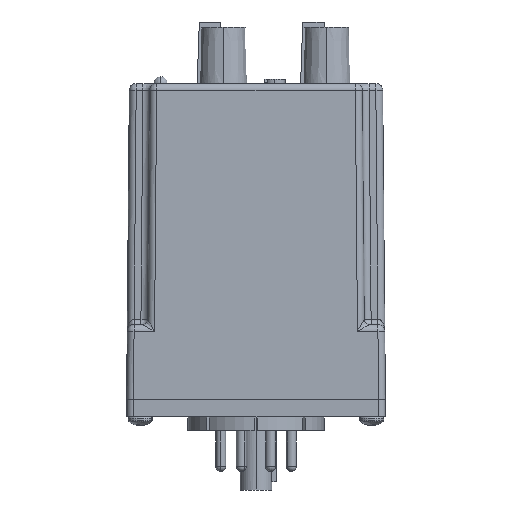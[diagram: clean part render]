
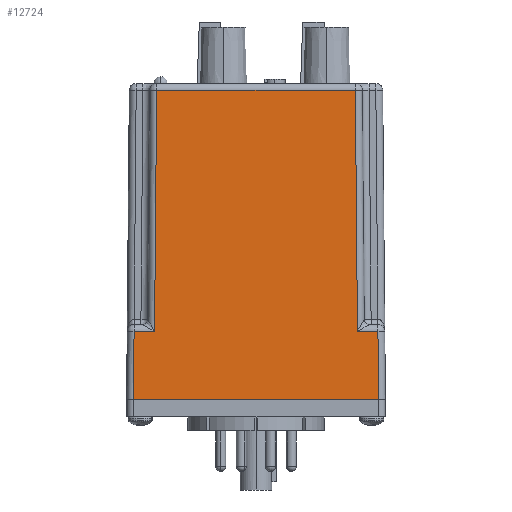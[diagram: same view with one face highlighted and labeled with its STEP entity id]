
A CAD part, left-side view. The second image highlights one B-rep face of the part: STEP entity #12724.
In plain terms, the highlighted planar face has unit normal (-1, 0, 0.009).
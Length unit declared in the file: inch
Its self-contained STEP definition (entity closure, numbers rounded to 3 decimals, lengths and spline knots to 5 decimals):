
#525 = LINE ( 'NONE', #21229, #4293 ) ;
#693 = EDGE_CURVE ( 'NONE', #19260, #26474, #14775, .T. ) ;
#1218 = EDGE_LOOP ( 'NONE', ( #11137, #23041, #22627, #25681, #30228, #22357, #3939, #19796 ) ) ;
#1587 = LINE ( 'NONE', #11926, #12076 ) ;
#3100 = EDGE_CURVE ( 'NONE', #17184, #23902, #29205, .T. ) ;
#3144 = LINE ( 'NONE', #30991, #6549 ) ;
#3242 = DIRECTION ( 'NONE',  ( 0., 1., 0. ) ) ;
#3621 = VERTEX_POINT ( 'NONE', #28580 ) ;
#3939 = ORIENTED_EDGE ( 'NONE', *, *, #19315, .T. ) ;
#4293 = VECTOR ( 'NONE', #3242, 39.37008 ) ;
#5062 = VERTEX_POINT ( 'NONE', #13468 ) ;
#6066 = PLANE ( 'NONE',  #15846 ) ;
#6285 = DIRECTION ( 'NONE',  ( 0., 1., 0. ) ) ;
#6549 = VECTOR ( 'NONE', #13986, 39.37008 ) ;
#10406 = EDGE_CURVE ( 'NONE', #23902, #5062, #3144, .T. ) ;
#10478 = CARTESIAN_POINT ( 'NONE',  ( -0.875, -1.1245, 0. ) ) ;
#11050 = DIRECTION ( 'NONE',  ( -0.009, 0.009, -1. ) ) ;
#11137 = ORIENTED_EDGE ( 'NONE', *, *, #22096, .T. ) ;
#11926 = CARTESIAN_POINT ( 'NONE',  ( -0.875, -1.12451, -0.00055 ) ) ;
#12076 = VECTOR ( 'NONE', #22295, 39.37008 ) ;
#12133 = DIRECTION ( 'NONE',  ( 0.009, 0.009, 1. ) ) ;
#12163 = CARTESIAN_POINT ( 'NONE',  ( -0.86954, -0.93104, 0.62555 ) ) ;
#12724 = ADVANCED_FACE ( 'NONE', ( #29322 ), #6066, .T. ) ;
#13436 = DIRECTION ( 'NONE',  ( 0., -1., 0. ) ) ;
#13450 = CARTESIAN_POINT ( 'NONE',  ( -0.85024, -0.91174, 2.83755 ) ) ;
#13468 = CARTESIAN_POINT ( 'NONE',  ( -0.875, 1.1245, 0. ) ) ;
#13986 = DIRECTION ( 'NONE',  ( -0.009, 0.009, -1. ) ) ;
#14434 = DIRECTION ( 'NONE',  ( 0., 1., 0. ) ) ;
#14775 = LINE ( 'NONE', #17342, #22633 ) ;
#15846 = AXIS2_PLACEMENT_3D ( 'NONE', #16408, #23580, #26788 ) ;
#16269 = EDGE_CURVE ( 'NONE', #20886, #19260, #1587, .T. ) ;
#16408 = CARTESIAN_POINT ( 'NONE',  ( -0.875, -1.1875, 0. ) ) ;
#16791 = VECTOR ( 'NONE', #13436, 39.37008 ) ;
#17184 = VERTEX_POINT ( 'NONE', #33532 ) ;
#17342 = CARTESIAN_POINT ( 'NONE',  ( -0.86954, -0.9305, 0.62555 ) ) ;
#18376 = LINE ( 'NONE', #21425, #26466 ) ;
#18550 = CARTESIAN_POINT ( 'NONE',  ( -0.875, -1.1875, 0. ) ) ;
#18874 = LINE ( 'NONE', #18550, #16791 ) ;
#19246 = VECTOR ( 'NONE', #12133, 39.37008 ) ;
#19260 = VERTEX_POINT ( 'NONE', #24708 ) ;
#19315 = EDGE_CURVE ( 'NONE', #26474, #29399, #27914, .T. ) ;
#19796 = ORIENTED_EDGE ( 'NONE', *, *, #26103, .T. ) ;
#20886 = VERTEX_POINT ( 'NONE', #10478 ) ;
#21060 = VECTOR ( 'NONE', #6285, 39.37008 ) ;
#21229 = CARTESIAN_POINT ( 'NONE',  ( -0.85024, 0.91119, 2.83755 ) ) ;
#21425 = CARTESIAN_POINT ( 'NONE',  ( -0.87484, 0.93634, 0.01853 ) ) ;
#21745 = CARTESIAN_POINT ( 'NONE',  ( -0.86954, 1.1185, 0.62555 ) ) ;
#22096 = EDGE_CURVE ( 'NONE', #3621, #17184, #18376, .T. ) ;
#22295 = DIRECTION ( 'NONE',  ( 0.009, 0.009, 1. ) ) ;
#22357 = ORIENTED_EDGE ( 'NONE', *, *, #693, .T. ) ;
#22627 = ORIENTED_EDGE ( 'NONE', *, *, #10406, .T. ) ;
#22633 = VECTOR ( 'NONE', #14434, 39.37008 ) ;
#22662 = CARTESIAN_POINT ( 'NONE',  ( -0.87502, -0.93652, -0.00219 ) ) ;
#23041 = ORIENTED_EDGE ( 'NONE', *, *, #3100, .T. ) ;
#23580 = DIRECTION ( 'NONE',  ( -1., 0., 0.009 ) ) ;
#23902 = VERTEX_POINT ( 'NONE', #26388 ) ;
#24708 = CARTESIAN_POINT ( 'NONE',  ( -0.86954, -1.11904, 0.62555 ) ) ;
#25016 = EDGE_CURVE ( 'NONE', #5062, #20886, #18874, .T. ) ;
#25681 = ORIENTED_EDGE ( 'NONE', *, *, #25016, .T. ) ;
#26103 = EDGE_CURVE ( 'NONE', #29399, #3621, #525, .T. ) ;
#26388 = CARTESIAN_POINT ( 'NONE',  ( -0.86954, 1.11904, 0.62555 ) ) ;
#26466 = VECTOR ( 'NONE', #11050, 39.37008 ) ;
#26474 = VERTEX_POINT ( 'NONE', #12163 ) ;
#26788 = DIRECTION ( 'NONE',  ( 0.009, 0., 1. ) ) ;
#27914 = LINE ( 'NONE', #22662, #19246 ) ;
#28580 = CARTESIAN_POINT ( 'NONE',  ( -0.85024, 0.91174, 2.83755 ) ) ;
#29205 = LINE ( 'NONE', #21745, #21060 ) ;
#29322 = FACE_OUTER_BOUND ( 'NONE', #1218, .T. ) ;
#29399 = VERTEX_POINT ( 'NONE', #13450 ) ;
#30228 = ORIENTED_EDGE ( 'NONE', *, *, #16269, .T. ) ;
#30991 = CARTESIAN_POINT ( 'NONE',  ( -0.87482, 1.12433, 0.02017 ) ) ;
#33532 = CARTESIAN_POINT ( 'NONE',  ( -0.86954, 0.93104, 0.62555 ) ) ;
